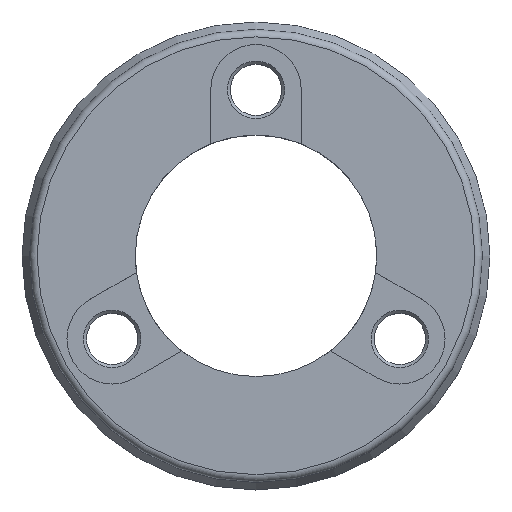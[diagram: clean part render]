
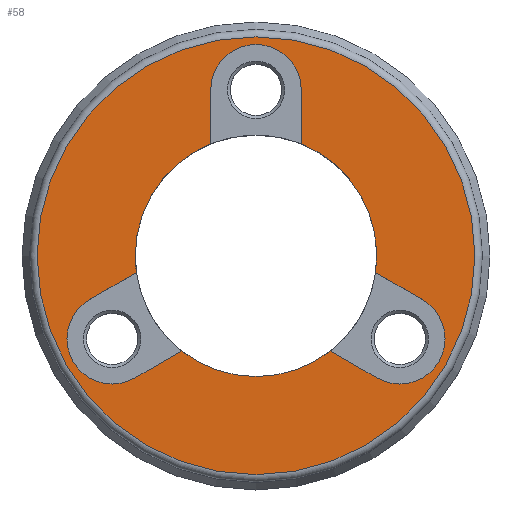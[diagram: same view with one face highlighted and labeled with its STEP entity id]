
A CAD part, top view. The second image highlights one B-rep face of the part: STEP entity #58.
In plain terms, the highlighted planar face has unit normal (0, 0, 1).
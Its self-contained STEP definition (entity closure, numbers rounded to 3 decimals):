
#58=ADVANCED_FACE('',(#143,#144),#84,.T.);
#84=PLANE('',#458);
#95=LINE('',#645,#119);
#96=LINE('',#649,#120);
#97=LINE('',#653,#121);
#98=LINE('',#657,#122);
#99=LINE('',#661,#123);
#100=LINE('',#665,#124);
#119=VECTOR('',#511,1.);
#120=VECTOR('',#514,1.);
#121=VECTOR('',#517,1.);
#122=VECTOR('',#520,1.);
#123=VECTOR('',#523,1.);
#124=VECTOR('',#526,1.);
#143=FACE_BOUND('',#180,.T.);
#144=FACE_BOUND('',#181,.T.);
#180=EDGE_LOOP('',(#226));
#181=EDGE_LOOP('',(#227,#228,#229,#230,#231,#232,#233,#234,#235,#236,#237,
#238));
#226=ORIENTED_EDGE('',*,*,#370,.T.);
#227=ORIENTED_EDGE('',*,*,#371,.T.);
#228=ORIENTED_EDGE('',*,*,#372,.T.);
#229=ORIENTED_EDGE('',*,*,#373,.T.);
#230=ORIENTED_EDGE('',*,*,#374,.T.);
#231=ORIENTED_EDGE('',*,*,#375,.T.);
#232=ORIENTED_EDGE('',*,*,#376,.T.);
#233=ORIENTED_EDGE('',*,*,#377,.T.);
#234=ORIENTED_EDGE('',*,*,#378,.T.);
#235=ORIENTED_EDGE('',*,*,#379,.T.);
#236=ORIENTED_EDGE('',*,*,#380,.T.);
#237=ORIENTED_EDGE('',*,*,#381,.T.);
#238=ORIENTED_EDGE('',*,*,#382,.T.);
#330=VERTEX_POINT('',#641);
#331=VERTEX_POINT('',#643);
#332=VERTEX_POINT('',#644);
#333=VERTEX_POINT('',#646);
#334=VERTEX_POINT('',#648);
#335=VERTEX_POINT('',#650);
#336=VERTEX_POINT('',#652);
#337=VERTEX_POINT('',#654);
#338=VERTEX_POINT('',#656);
#339=VERTEX_POINT('',#658);
#340=VERTEX_POINT('',#660);
#341=VERTEX_POINT('',#662);
#342=VERTEX_POINT('',#664);
#370=EDGE_CURVE('',#330,#330,#422,.T.);
#371=EDGE_CURVE('',#331,#332,#423,.T.);
#372=EDGE_CURVE('',#332,#333,#95,.T.);
#373=EDGE_CURVE('',#333,#334,#424,.T.);
#374=EDGE_CURVE('',#334,#335,#96,.T.);
#375=EDGE_CURVE('',#335,#336,#425,.T.);
#376=EDGE_CURVE('',#336,#337,#97,.T.);
#377=EDGE_CURVE('',#337,#338,#426,.T.);
#378=EDGE_CURVE('',#338,#339,#98,.T.);
#379=EDGE_CURVE('',#339,#340,#427,.T.);
#380=EDGE_CURVE('',#340,#341,#99,.T.);
#381=EDGE_CURVE('',#341,#342,#428,.T.);
#382=EDGE_CURVE('',#342,#331,#100,.T.);
#422=CIRCLE('',#451,14.5);
#423=CIRCLE('',#452,3.);
#424=CIRCLE('',#453,8.);
#425=CIRCLE('',#454,3.);
#426=CIRCLE('',#455,8.);
#427=CIRCLE('',#456,3.);
#428=CIRCLE('',#457,8.);
#451=AXIS2_PLACEMENT_3D('',#640,#507,#508);
#452=AXIS2_PLACEMENT_3D('',#642,#509,#510);
#453=AXIS2_PLACEMENT_3D('',#647,#512,#513);
#454=AXIS2_PLACEMENT_3D('',#651,#515,#516);
#455=AXIS2_PLACEMENT_3D('',#655,#518,#519);
#456=AXIS2_PLACEMENT_3D('',#659,#521,#522);
#457=AXIS2_PLACEMENT_3D('',#663,#524,#525);
#458=AXIS2_PLACEMENT_3D('',#666,#527,#528);
#507=DIRECTION('',(0.,0.,1.));
#508=DIRECTION('',(1.,0.,0.));
#509=DIRECTION('',(0.,0.,-1.));
#510=DIRECTION('',(-0.866,0.5,0.));
#511=DIRECTION('',(-0.866,0.5,0.));
#512=DIRECTION('',(0.,0.,-1.));
#513=DIRECTION('',(-1.,0.,0.));
#514=DIRECTION('',(-0.866,-0.5,0.));
#515=DIRECTION('',(0.,0.,-1.));
#516=DIRECTION('',(0.866,0.5,0.));
#517=DIRECTION('',(0.866,0.5,0.));
#518=DIRECTION('',(0.,0.,-1.));
#519=DIRECTION('',(-1.,0.,0.));
#520=DIRECTION('',(0.,1.,0.));
#521=DIRECTION('',(0.,0.,-1.));
#522=DIRECTION('',(0.,-1.,0.));
#523=DIRECTION('',(0.,-1.,0.));
#524=DIRECTION('',(0.,0.,-1.));
#525=DIRECTION('',(-1.,0.,0.));
#526=DIRECTION('',(0.866,-0.5,0.));
#527=DIRECTION('',(0.,0.,1.));
#528=DIRECTION('',(1.,0.,0.));
#640=CARTESIAN_POINT('',(0.,0.,9.8));
#641=CARTESIAN_POINT('',(14.5,0.,9.8));
#642=CARTESIAN_POINT('',(9.526,-5.5,9.8));
#643=CARTESIAN_POINT('',(11.026,-2.902,9.8));
#644=CARTESIAN_POINT('',(8.026,-8.098,9.8));
#645=CARTESIAN_POINT('',(8.026,-8.098,9.8));
#646=CARTESIAN_POINT('',(4.923,-6.306,9.8));
#647=CARTESIAN_POINT('',(0.,0.,9.8));
#648=CARTESIAN_POINT('',(-4.923,-6.306,9.8));
#649=CARTESIAN_POINT('',(-3.696,-5.598,9.8));
#650=CARTESIAN_POINT('',(-8.026,-8.098,9.8));
#651=CARTESIAN_POINT('',(-9.526,-5.5,9.8));
#652=CARTESIAN_POINT('',(-11.026,-2.902,9.8));
#653=CARTESIAN_POINT('',(-11.026,-2.902,9.8));
#654=CARTESIAN_POINT('',(-7.923,-1.11,9.8));
#655=CARTESIAN_POINT('',(0.,0.,9.8));
#656=CARTESIAN_POINT('',(-3.,7.416,9.8));
#657=CARTESIAN_POINT('',(-3.,6.,9.8));
#658=CARTESIAN_POINT('',(-3.,11.,9.8));
#659=CARTESIAN_POINT('',(0.,11.,9.8));
#660=CARTESIAN_POINT('',(3.,11.,9.8));
#661=CARTESIAN_POINT('',(3.,11.,9.8));
#662=CARTESIAN_POINT('',(3.,7.416,9.8));
#663=CARTESIAN_POINT('',(0.,0.,9.8));
#664=CARTESIAN_POINT('',(7.923,-1.11,9.8));
#665=CARTESIAN_POINT('',(6.696,-0.402,9.8));
#666=CARTESIAN_POINT('',(0.,0.,9.8));
